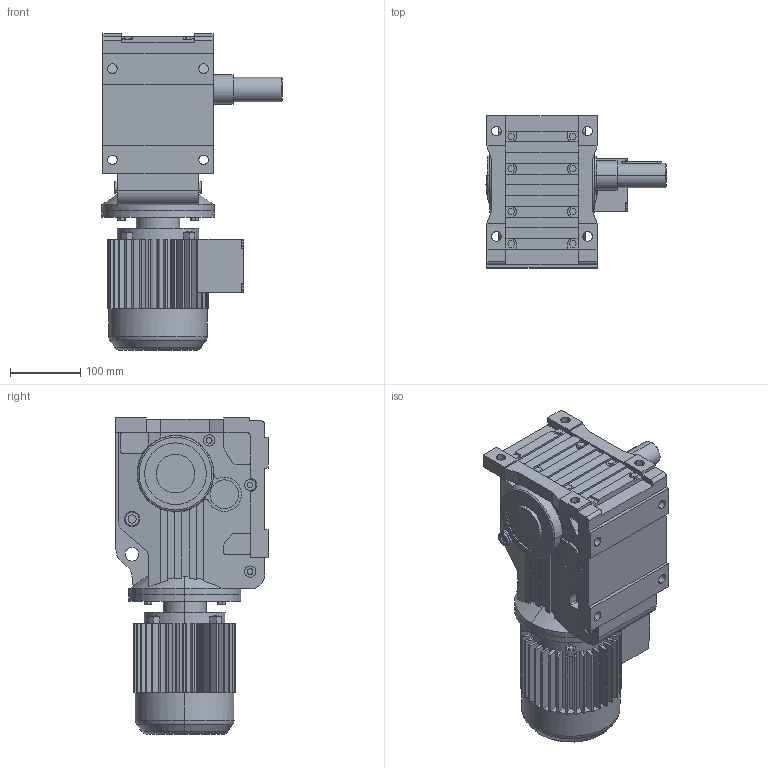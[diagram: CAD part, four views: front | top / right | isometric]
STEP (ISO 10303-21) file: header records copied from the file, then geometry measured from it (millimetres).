
FILE_DESCRIPTION(('Open CASCADE Model'),'2;1');
FILE_NAME('Open CASCADE Shape Model','2021-06-15T17:06:40',('Author'),( 'Open CASCADE'),'Open CASCADE STEP processor 6.3','Open CASCADE 6.3' ,'Unknown');
FILE_SCHEMA(('AUTOMOTIVE_DESIGN_CC2 { 1 2 10303 214 -1 1 5 4 }'));
Length unit declared in the file: millimetre
Products named in the file (4): 1_K57DT71D-A; K37‵157_57.step; 萇儂_160-DT71D-199-263-145-122.step; す瑩妗陑粣K_57.step
Assembly tree (3 placements, depth 2):
  1_K57DT71D-A
    K37‵157_57.step
    萇儂_160-DT71D-199-263-145-122.step
    す瑩妗陑粣K_57.step
Bounding box: 257 x 217 x 452 mm (x, y, z)
Volume: 9110138.1 mm3; surface area: 594107.5 mm2
Topology: 3 solids, 3 shells, 836 faces, 2204 edges, 1431 vertices
Faces by surface type: plane 582, cylinder 231, cone 15, torus 8
Entity records: 57416 total; most frequent: CARTESIAN_POINT 15535, DIRECTION 7217, ORIENTED_EDGE 4404, PCURVE 4404, DEFINITIONAL_REPRESENTATION 4404, LINE 3932, VECTOR 3932, EDGE_CURVE 2202
